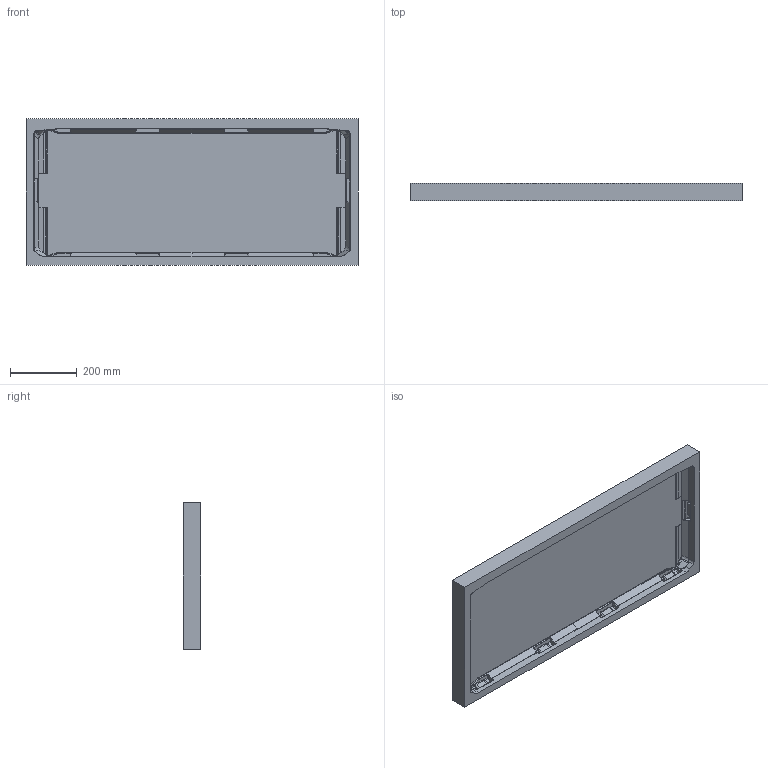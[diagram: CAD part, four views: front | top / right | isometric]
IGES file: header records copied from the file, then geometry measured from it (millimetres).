
Start section: SolidWorks IGES file using analytic representation for surfaces
Global section: file name: C:\Users\chad.chaiyont\My Project\Vault Case\Vault TOR\Vault CAD\PP PID cad\V700\V700 PP tubs\V700 PP TOP TUB 2-5-2024.IGS; native system: SolidWorks 2021; preprocessor: SolidWorks 2021; author: Chad.Chaiyont; date: 240217.234423; units: millimetre
Bounding box: 997.66 x 52.49 x 441.23 mm (x, y, z)
Surface area: 1135766.4 mm2 (no closed solid volume)
Topology: 0 solids, 0 shells, 1026 faces, 5421 edges, 5379 vertices
Faces by surface type: bspline 1026
